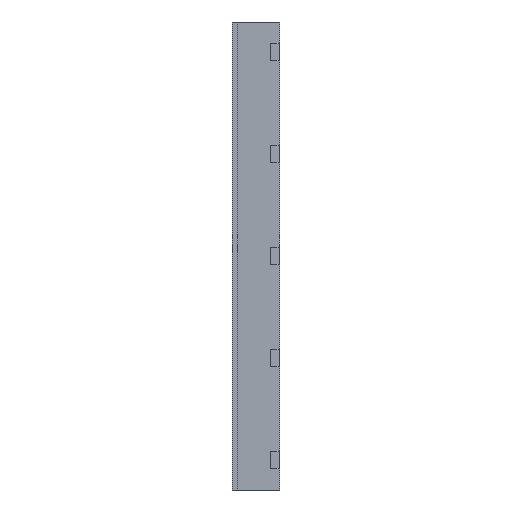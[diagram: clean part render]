
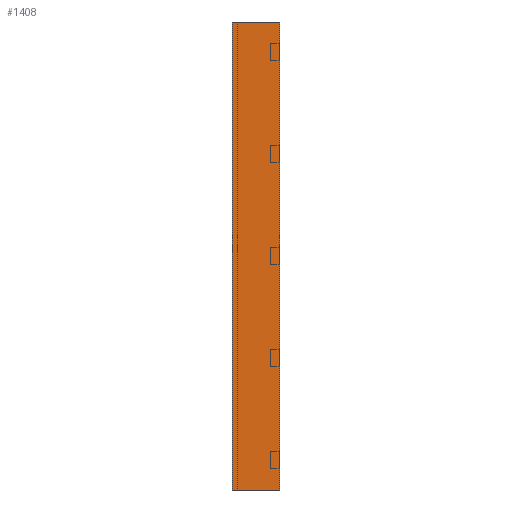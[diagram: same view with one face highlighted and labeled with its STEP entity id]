
A CAD part, left-side view. The second image highlights one B-rep face of the part: STEP entity #1408.
In plain terms, the highlighted planar face has unit normal (-1, 0, 0).
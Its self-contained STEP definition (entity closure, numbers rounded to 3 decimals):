
#32 = ORIENTED_EDGE ( 'NONE', *, *, #1079, .F. ) ;
#136 = LINE ( 'NONE', #1329, #376 ) ;
#146 = EDGE_LOOP ( 'NONE', ( #32, #848, #1027, #949 ) ) ;
#270 = CARTESIAN_POINT ( 'NONE',  ( 0., 112.5, 0. ) ) ;
#298 = EDGE_CURVE ( 'NONE', #1537, #917, #1441, .T. ) ;
#351 = CARTESIAN_POINT ( 'NONE',  ( 0., 0., -1100. ) ) ;
#376 = VECTOR ( 'NONE', #928, 1000. ) ;
#414 = DIRECTION ( 'NONE',  ( 0., -1., 0. ) ) ;
#533 = CARTESIAN_POINT ( 'NONE',  ( 0., 112.5, -1100. ) ) ;
#589 = FACE_OUTER_BOUND ( 'NONE', #146, .T. ) ;
#661 = VECTOR ( 'NONE', #414, 1000. ) ;
#697 = VECTOR ( 'NONE', #1307, 1000. ) ;
#711 = VERTEX_POINT ( 'NONE', #270 ) ;
#734 = CARTESIAN_POINT ( 'NONE',  ( 0., 0., -1100. ) ) ;
#848 = ORIENTED_EDGE ( 'NONE', *, *, #1494, .F. ) ;
#858 = CARTESIAN_POINT ( 'NONE',  ( 0., 0., 0. ) ) ;
#896 = CARTESIAN_POINT ( 'NONE',  ( 0., 112.5, -1100. ) ) ;
#917 = VERTEX_POINT ( 'NONE', #351 ) ;
#928 = DIRECTION ( 'NONE',  ( 0., 0., 1. ) ) ;
#949 = ORIENTED_EDGE ( 'NONE', *, *, #1116, .T. ) ;
#1001 = PLANE ( 'NONE',  #1284 ) ;
#1027 = ORIENTED_EDGE ( 'NONE', *, *, #298, .T. ) ;
#1046 = DIRECTION ( 'NONE',  ( 0., -1., 0. ) ) ;
#1079 = EDGE_CURVE ( 'NONE', #711, #1431, #1301, .T. ) ;
#1116 = EDGE_CURVE ( 'NONE', #917, #1431, #136, .T. ) ;
#1167 = LINE ( 'NONE', #896, #697 ) ;
#1179 = CARTESIAN_POINT ( 'NONE',  ( 0., 0., 0. ) ) ;
#1283 = DIRECTION ( 'NONE',  ( -1., 0., 0. ) ) ;
#1284 = AXIS2_PLACEMENT_3D ( 'NONE', #734, #1283, #1366 ) ;
#1301 = LINE ( 'NONE', #1179, #1335 ) ;
#1307 = DIRECTION ( 'NONE',  ( 0., 0., 1. ) ) ;
#1329 = CARTESIAN_POINT ( 'NONE',  ( 0., 0., -1100. ) ) ;
#1335 = VECTOR ( 'NONE', #1046, 1000. ) ;
#1366 = DIRECTION ( 'NONE',  ( 0., 0., 1. ) ) ;
#1408 = ADVANCED_FACE ( 'NONE', ( #589 ), #1001, .T. ) ;
#1431 = VERTEX_POINT ( 'NONE', #858 ) ;
#1441 = LINE ( 'NONE', #1559, #661 ) ;
#1494 = EDGE_CURVE ( 'NONE', #1537, #711, #1167, .T. ) ;
#1537 = VERTEX_POINT ( 'NONE', #533 ) ;
#1559 = CARTESIAN_POINT ( 'NONE',  ( 0., 0., -1100. ) ) ;
